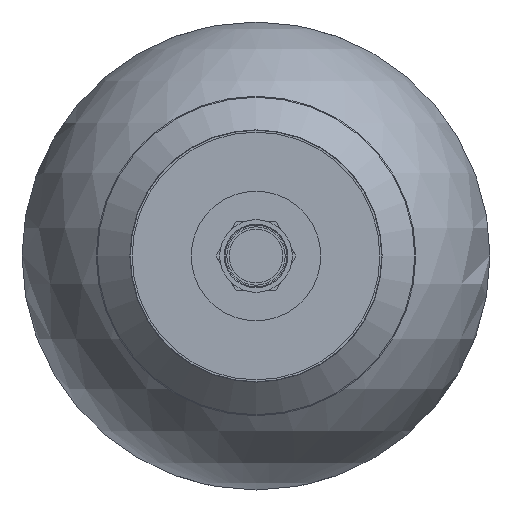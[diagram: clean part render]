
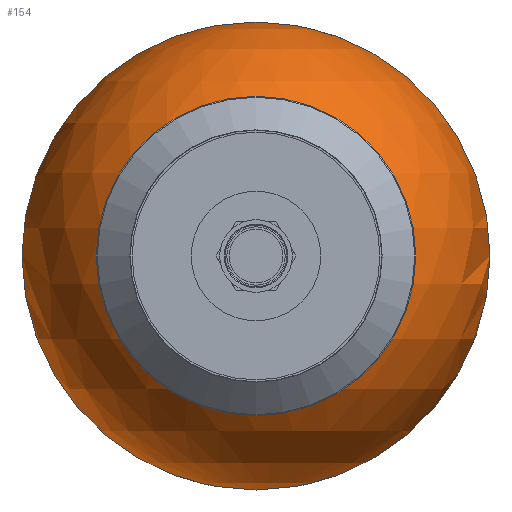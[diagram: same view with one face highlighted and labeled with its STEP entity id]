
A CAD part, front view. The second image highlights one B-rep face of the part: STEP entity #154.
In plain terms, the highlighted spherical face has radius 108.35 mm.
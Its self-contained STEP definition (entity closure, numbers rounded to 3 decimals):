
#112=CARTESIAN_POINT('',(0.0,30.0,0.0));
#113=VERTEX_POINT('',#112);
#114=CARTESIAN_POINT('',(0.0,0.0,0.0));
#115=DIRECTION('',(1.0,0.0,0.0));
#116=DIRECTION('',(0.0,1.0,0.0));
#117=AXIS2_PLACEMENT_3D('',#114,#115,#116);
#118=CIRCLE('',#117,30.0);
#119=EDGE_CURVE('',#113,#113,#118,.T.);
#135=CARTESIAN_POINT('',(104.114,0.,0.0));
#136=DIRECTION('',(0.0,0.0,1.0));
#137=DIRECTION('',(1.0,0.0,0.0));
#138=AXIS2_PLACEMENT_3D('',#135,#136,#137);
#139=SPHERICAL_SURFACE('',#138,108.35);
#140=CARTESIAN_POINT('',(104.114,108.35,0.0));
#141=VERTEX_POINT('',#140);
#142=CARTESIAN_POINT('',(104.114,0.0,0.0));
#143=DIRECTION('',(1.0,0.0,0.0));
#144=DIRECTION('',(0.0,1.0,0.0));
#145=AXIS2_PLACEMENT_3D('',#142,#143,#144);
#146=CIRCLE('',#145,108.35);
#147=EDGE_CURVE('',#141,#141,#146,.T.);
#148=ORIENTED_EDGE('',*,*,#147,.F.);
#149=EDGE_LOOP('',(#148));
#150=FACE_OUTER_BOUND('',#149,.T.);
#151=ORIENTED_EDGE('',*,*,#119,.T.);
#152=EDGE_LOOP('',(#151));
#153=FACE_BOUND('',#152,.T.);
#154=ADVANCED_FACE('',(#150,#153),#139,.T.);
